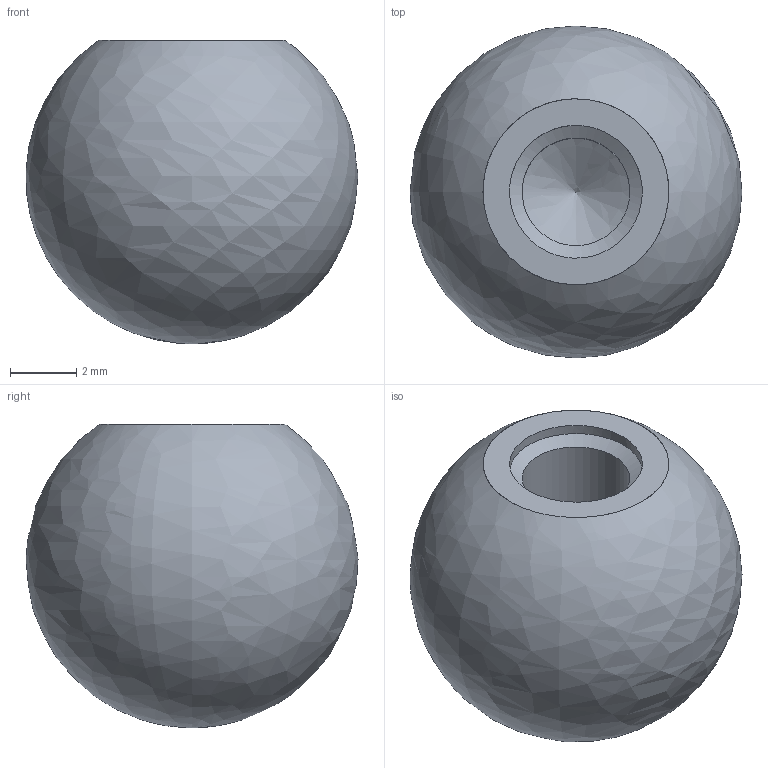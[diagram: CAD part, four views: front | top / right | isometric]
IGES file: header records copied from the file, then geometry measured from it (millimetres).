
Global section: file name: 22.60; native system: Autodesk Inventor 2016; preprocessor: unknown; author: CAD2; date: 20160830.111101; units: millimetre
Bounding box: 9.99 x 10 x 9.14 mm (x, y, z)
Volume: 432 mm3; surface area: 638.7 mm2
Topology: 2 solids, 2 shells, 11 faces, 27 edges, 19 vertices
Faces by surface type: bspline 11
